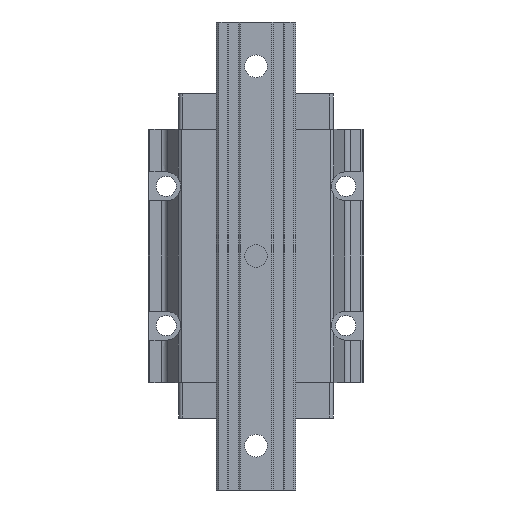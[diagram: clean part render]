
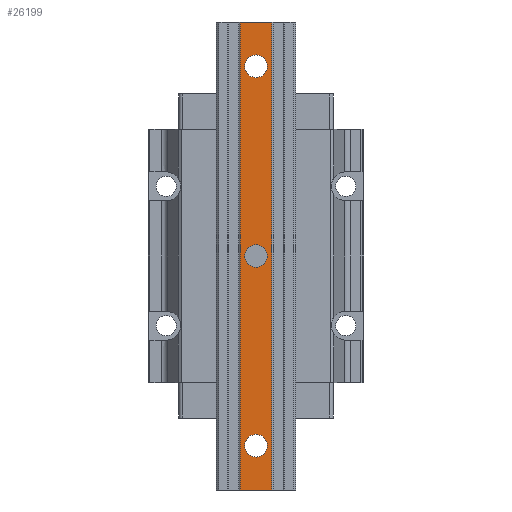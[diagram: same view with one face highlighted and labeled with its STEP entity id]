
A CAD part, front view. The second image highlights one B-rep face of the part: STEP entity #26199.
In plain terms, the highlighted planar face has unit normal (0, -1, 0).
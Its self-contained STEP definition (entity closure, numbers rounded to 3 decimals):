
#352 = ORIENTED_EDGE ( 'NONE', *, *, #23561, .T. ) ;
#1359 = CARTESIAN_POINT ( 'NONE',  ( 0., -53., -9. ) ) ;
#1426 = CIRCLE ( 'NONE', #15762, 9. ) ;
#1551 = AXIS2_PLACEMENT_3D ( 'NONE', #17098, #18116, #11491 ) ;
#1650 = DIRECTION ( 'NONE',  ( 0., 1., 0. ) ) ;
#1844 = DIRECTION ( 'NONE',  ( 0., 1., 0. ) ) ;
#2230 = DIRECTION ( 'NONE',  ( 0., 0., -1. ) ) ;
#2472 = CARTESIAN_POINT ( 'NONE',  ( -12.5, -53., 185. ) ) ;
#3155 = LINE ( 'NONE', #13002, #29104 ) ;
#3413 = AXIS2_PLACEMENT_3D ( 'NONE', #30953, #1650, #14723 ) ;
#5478 = VERTEX_POINT ( 'NONE', #32545 ) ;
#5633 = LINE ( 'NONE', #9462, #24923 ) ;
#5886 = DIRECTION ( 'NONE',  ( 0., 0., 1. ) ) ;
#6857 = ORIENTED_EDGE ( 'NONE', *, *, #17768, .T. ) ;
#7637 = FACE_BOUND ( 'NONE', #32462, .T. ) ;
#8017 = VERTEX_POINT ( 'NONE', #2472 ) ;
#8023 = EDGE_CURVE ( 'NONE', #15677, #30685, #1426, .T. ) ;
#8189 = VERTEX_POINT ( 'NONE', #29338 ) ;
#8465 = EDGE_LOOP ( 'NONE', ( #41846, #10177 ) ) ;
#8587 = CARTESIAN_POINT ( 'NONE',  ( 0., -53., 0. ) ) ;
#9115 = CARTESIAN_POINT ( 'NONE',  ( 0., -53., 0. ) ) ;
#9462 = CARTESIAN_POINT ( 'NONE',  ( -12.5, -53., -185. ) ) ;
#10177 = ORIENTED_EDGE ( 'NONE', *, *, #8023, .T. ) ;
#10214 = EDGE_CURVE ( 'NONE', #16519, #8189, #33216, .T. ) ;
#10558 = DIRECTION ( 'NONE',  ( 1., 0., 0. ) ) ;
#11491 = DIRECTION ( 'NONE',  ( 0., 0., 1. ) ) ;
#11547 = CARTESIAN_POINT ( 'NONE',  ( 0., -53., 141. ) ) ;
#11614 = DIRECTION ( 'NONE',  ( 0., 0., 1. ) ) ;
#12335 = CIRCLE ( 'NONE', #3413, 9. ) ;
#12423 = LINE ( 'NONE', #41386, #32700 ) ;
#12710 = ORIENTED_EDGE ( 'NONE', *, *, #30490, .F. ) ;
#13002 = CARTESIAN_POINT ( 'NONE',  ( 12.5, -53., -185. ) ) ;
#13107 = ORIENTED_EDGE ( 'NONE', *, *, #29519, .T. ) ;
#13473 = VERTEX_POINT ( 'NONE', #11547 ) ;
#13725 = AXIS2_PLACEMENT_3D ( 'NONE', #14715, #37480, #24362 ) ;
#14511 = VECTOR ( 'NONE', #10558, 1000. ) ;
#14715 = CARTESIAN_POINT ( 'NONE',  ( -12.5, -53., -185. ) ) ;
#14723 = DIRECTION ( 'NONE',  ( 0., 0., 1. ) ) ;
#15270 = DIRECTION ( 'NONE',  ( 0., 0., 1. ) ) ;
#15466 = CARTESIAN_POINT ( 'NONE',  ( 0., -53., 9. ) ) ;
#15677 = VERTEX_POINT ( 'NONE', #1359 ) ;
#15762 = AXIS2_PLACEMENT_3D ( 'NONE', #9115, #1844, #5886 ) ;
#16519 = VERTEX_POINT ( 'NONE', #32849 ) ;
#16707 = EDGE_LOOP ( 'NONE', ( #20416, #12710, #6857, #38539 ) ) ;
#17098 = CARTESIAN_POINT ( 'NONE',  ( 0., -53., 150. ) ) ;
#17768 = EDGE_CURVE ( 'NONE', #8017, #35797, #5633, .T. ) ;
#18116 = DIRECTION ( 'NONE',  ( 0., 1., 0. ) ) ;
#18325 = AXIS2_PLACEMENT_3D ( 'NONE', #18451, #24886, #11614 ) ;
#18451 = CARTESIAN_POINT ( 'NONE',  ( 0., -53., -150. ) ) ;
#18703 = ORIENTED_EDGE ( 'NONE', *, *, #10214, .T. ) ;
#19452 = EDGE_CURVE ( 'NONE', #8189, #16519, #25833, .T. ) ;
#20255 = CARTESIAN_POINT ( 'NONE',  ( -12.5, -53., -185. ) ) ;
#20309 = AXIS2_PLACEMENT_3D ( 'NONE', #34243, #34447, #15270 ) ;
#20416 = ORIENTED_EDGE ( 'NONE', *, *, #37364, .T. ) ;
#21538 = EDGE_CURVE ( 'NONE', #35797, #29506, #12423, .T. ) ;
#22978 = EDGE_LOOP ( 'NONE', ( #13107, #352 ) ) ;
#23413 = AXIS2_PLACEMENT_3D ( 'NONE', #8587, #34600, #37981 ) ;
#23561 = EDGE_CURVE ( 'NONE', #13473, #35553, #30904, .T. ) ;
#24362 = DIRECTION ( 'NONE',  ( 0., 0., -1. ) ) ;
#24587 = CARTESIAN_POINT ( 'NONE',  ( 12.5, -53., -185. ) ) ;
#24886 = DIRECTION ( 'NONE',  ( 0., 1., 0. ) ) ;
#24923 = VECTOR ( 'NONE', #2230, 1000. ) ;
#25633 = DIRECTION ( 'NONE',  ( 0., 0., 1. ) ) ;
#25833 = CIRCLE ( 'NONE', #18325, 9. ) ;
#26199 = ADVANCED_FACE ( 'NONE', ( #7637, #27516, #30731, #27114 ), #27317, .T. ) ;
#27114 = FACE_OUTER_BOUND ( 'NONE', #16707, .T. ) ;
#27317 = PLANE ( 'NONE',  #13725 ) ;
#27516 = FACE_BOUND ( 'NONE', #22978, .T. ) ;
#28649 = DIRECTION ( 'NONE',  ( 1., 0., 0. ) ) ;
#29104 = VECTOR ( 'NONE', #25633, 1000. ) ;
#29338 = CARTESIAN_POINT ( 'NONE',  ( 0., -53., -159. ) ) ;
#29506 = VERTEX_POINT ( 'NONE', #24587 ) ;
#29519 = EDGE_CURVE ( 'NONE', #35553, #13473, #12335, .T. ) ;
#30490 = EDGE_CURVE ( 'NONE', #8017, #5478, #34240, .T. ) ;
#30685 = VERTEX_POINT ( 'NONE', #15466 ) ;
#30731 = FACE_BOUND ( 'NONE', #8465, .T. ) ;
#30904 = CIRCLE ( 'NONE', #1551, 9. ) ;
#30953 = CARTESIAN_POINT ( 'NONE',  ( 0., -53., 150. ) ) ;
#31276 = EDGE_CURVE ( 'NONE', #30685, #15677, #41739, .T. ) ;
#32462 = EDGE_LOOP ( 'NONE', ( #18703, #35182 ) ) ;
#32545 = CARTESIAN_POINT ( 'NONE',  ( 12.5, -53., 185. ) ) ;
#32700 = VECTOR ( 'NONE', #28649, 1000. ) ;
#32849 = CARTESIAN_POINT ( 'NONE',  ( 0., -53., -141. ) ) ;
#33216 = CIRCLE ( 'NONE', #20309, 9. ) ;
#34240 = LINE ( 'NONE', #36971, #14511 ) ;
#34243 = CARTESIAN_POINT ( 'NONE',  ( 0., -53., -150. ) ) ;
#34447 = DIRECTION ( 'NONE',  ( 0., 1., 0. ) ) ;
#34600 = DIRECTION ( 'NONE',  ( 0., 1., 0. ) ) ;
#35182 = ORIENTED_EDGE ( 'NONE', *, *, #19452, .T. ) ;
#35553 = VERTEX_POINT ( 'NONE', #41133 ) ;
#35797 = VERTEX_POINT ( 'NONE', #20255 ) ;
#36971 = CARTESIAN_POINT ( 'NONE',  ( 0., -53., 185. ) ) ;
#37364 = EDGE_CURVE ( 'NONE', #29506, #5478, #3155, .T. ) ;
#37480 = DIRECTION ( 'NONE',  ( 0., -1., 0. ) ) ;
#37981 = DIRECTION ( 'NONE',  ( 0., 0., 1. ) ) ;
#38539 = ORIENTED_EDGE ( 'NONE', *, *, #21538, .T. ) ;
#41133 = CARTESIAN_POINT ( 'NONE',  ( 0., -53., 159. ) ) ;
#41386 = CARTESIAN_POINT ( 'NONE',  ( 0., -53., -185. ) ) ;
#41739 = CIRCLE ( 'NONE', #23413, 9. ) ;
#41846 = ORIENTED_EDGE ( 'NONE', *, *, #31276, .T. ) ;
